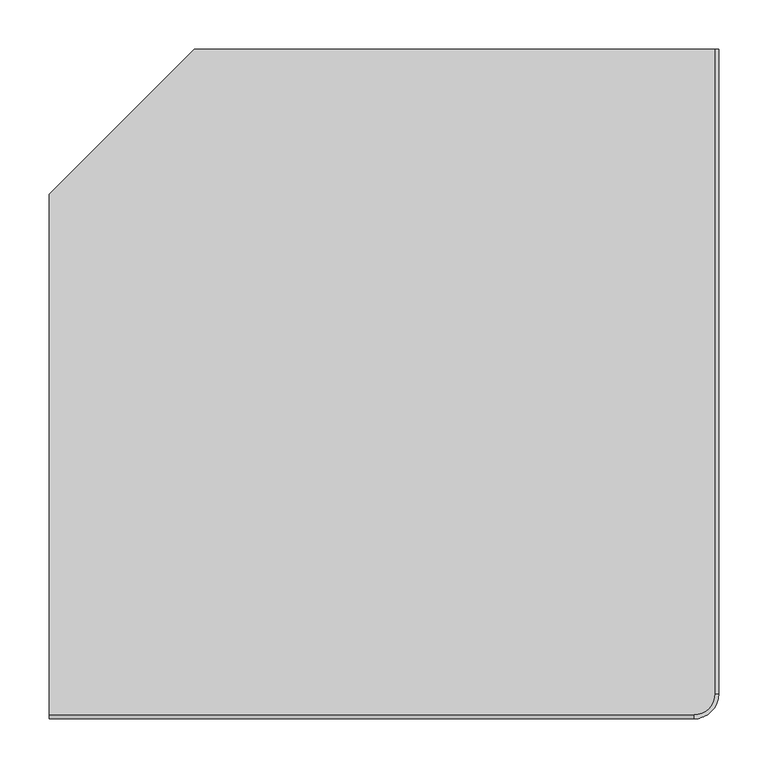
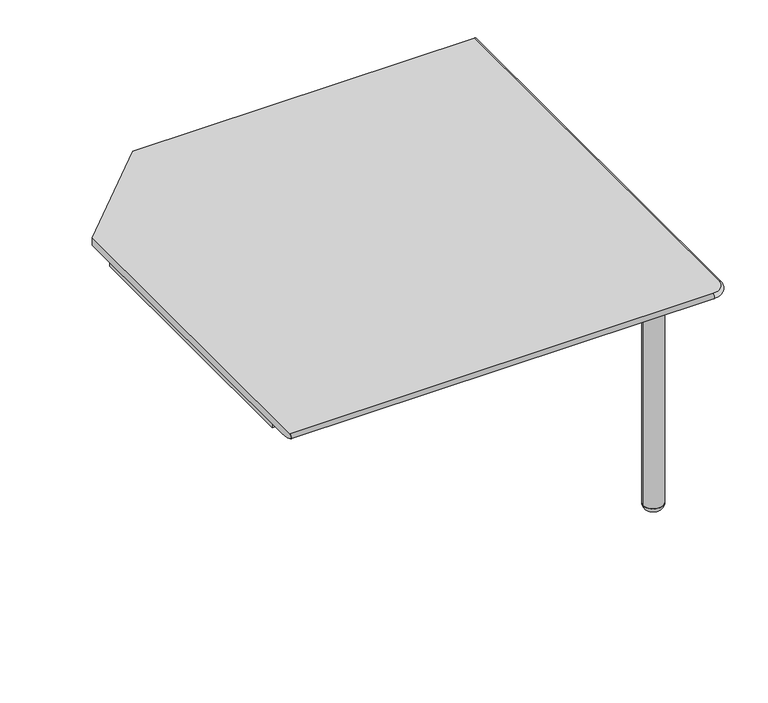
"""IFC4 building model written with IfcOpenShell, lengths in millimetres: furniture geometry, Integra - Coastal Collection - Tide Metal - System Table : Tide - 90° Two-Way Table."""

from ifc_helpers import new_model, si_unit, point, frame, frame_2d, origin, place, context, project, spatial, polyline, circle_curve, ellipse_curve, trimmed, segment, composite_curve, outline, extrude, source, transform, mapped, element, save
from ifc_brep_helpers import plane_surface, cylinder_surface, revolved_surface, advanced_brep


def furniture_3896681b(model_context):
    return source(origin(), model_context, "Body", "SolidModel", [
        advanced_brep(
        [(604.8363252, -190.5000363, 9.5239742), (589.1919312, -190.5000363, 9.5239742), (620.4807191, -190.5000363, 9.5239742), (598.7169312, -190.5000363, -0.0010258), (610.9557191, -190.5000363, -0.0010258), (604.8363252, -190.5000363, -0.0010258)],
        [
            (0, 1),
            (1, 2, circle_curve(frame((604.8363252, -190.5000363, 9.5239742), z_axis=(0.0, 0.0, 1.0), x_axis=(-1.0, 0.0, 0.0)), 15.6443939)),
            (2, 0),
            (2, 1, circle_curve(frame((604.8363252, -190.5000363, 9.5239742), z_axis=(0.0, 0.0, 1.0), x_axis=(-1.0, 0.0, 0.0)), 15.6443939)),
            (1, 3, circle_curve(frame((598.7169312, -190.5000363, 9.5239742), z_axis=(0.0, -1.0, 0.0), x_axis=(1.0, 0.0, 0.0)), 9.525)),
            (3, 4, circle_curve(frame((604.8363252, -190.5000363, -0.0010258), z_axis=(0.0, 0.0, 1.0), x_axis=(-1.0, 0.0, 0.0)), 6.1193939)),
            (4, 2, circle_curve(frame((610.9557191, -190.5000363, 9.5239742), z_axis=(0.0, -1.0, 0.0), x_axis=(-1.0, 0.0, 0.0)), 9.525)),
            (4, 3, circle_curve(frame((604.8363252, -190.5000363, -0.0010258), z_axis=(0.0, 0.0, 1.0), x_axis=(-1.0, 0.0, 0.0)), 6.1193939)),
            (3, 5),
            (5, 4),
        ],
        [
            plane_surface(frame((604.8363252, -190.5000363, 9.5239742), z_axis=(0.0, 0.0, 1.0), x_axis=(-1.0, 0.0, 0.0))),
            revolved_surface(trimmed(ellipse_curve(frame((598.7169312, -190.5000363, 9.5239742), z_axis=(0.0, 1.0, 0.0), x_axis=(1.0, 0.0, 0.0)), 9.525, 9.525), [point((598.7169312, -190.5000363, -0.0010258))], [point((589.1919312, -190.5000363, 9.5239742))], True, "CARTESIAN"), (604.8363252, -190.5000363, -0.0010258), (0.0, 0.0, 1.0)),
            plane_surface(frame((604.8363252, -190.5000363, -0.0010258), z_axis=(0.0, 0.0, -1.0), x_axis=(-1.0, 0.0, 0.0))),
        ],
        [
            (0, [[1, 2, 3]]),
            (0, [[-3, 4, -1]]),
            (1, [[-2, 5, 6, 7]]),
            (1, [[-4, -7, 8, -5]]),
            (2, [[-6, 9, 10]]),
            (2, [[-8, -10, -9]]),
        ],
    ),
        extrude(outline(composite_curve([segment(trimmed(circle_curve(frame_2d((604.8363252, -190.4999879)), 15.6443939), [point((589.1919312, -190.4999879))], [point((620.4807191, -190.4999879))], False, "CARTESIAN"), True, "CONTINUOUS"), segment(trimmed(circle_curve(frame_2d((604.8363252, -190.4999879)), 15.6443939), [point((620.4807191, -190.4999879))], [point((589.1919312, -190.4999879))], False, "CARTESIAN"), True, "CONTINUOUS")], self_intersect=False)), frame((0.0, 0.0, 9.5366915), z_axis=(0.0, 0.0, 1.0), x_axis=(1.0, 0.0, 0.0)), (0.0, 0.0, 1.0), 349.0026435),
        advanced_brep(
        [(147.6383842, 414.338372, 377.589341), (0.0, 266.6999879, 377.589341), (0.0, -262.7380071, 377.589341), (655.6336746, -262.7380071, 377.589341), (677.0876788, -241.2840029, 377.589341), (677.0876788, 414.338372, 377.589341), (0.0, -241.2840029, 364.8893349), (0.0, 266.6999879, 364.8893349), (147.6383842, 414.338372, 364.8893349), (655.6336746, 414.338372, 364.8893349), (655.6336746, -241.2840029, 364.8893349), (678.7683998, 414.338372, 370.0395379), (0.0, -264.4187281, 370.0395379), (678.7683998, -241.2840029, 370.0395379), (655.6336746, -264.4187281, 370.0395379)],
        [
            (0, 1),
            (1, 2),
            (2, 3),
            (3, 4, circle_curve(frame((655.6336746, -241.2840029, 377.589341), z_axis=(0.0, 0.0, 1.0), x_axis=(1.0, 0.0, 0.0)), 21.4540042)),
            (4, 5),
            (5, 0),
            (6, 7),
            (7, 8),
            (8, 9),
            (9, 10),
            (10, 6),
            (8, 0),
            (5, 11, circle_curve(frame((677.0876788, 414.338372, 373.6273602), z_axis=(0.0, 1.0, 0.0), x_axis=(1.0, 0.0, 0.0)), 3.9619808)),
            (11, 9, circle_curve(frame((655.6336746, 414.338372, 419.4250596), z_axis=(0.0, 1.0, 0.0), x_axis=(1.0, 0.0, 0.0)), 54.5357246)),
            (7, 1),
            (6, 12, circle_curve(frame((0.0, -241.2840029, 419.4250596), z_axis=(-1.0, 0.0, 0.0), x_axis=(0.0, -1.0, 0.0)), 54.5357246)),
            (12, 2, circle_curve(frame((0.0, -262.7380071, 373.6273602), z_axis=(-1.0, 0.0, 0.0), x_axis=(0.0, -1.0, 0.0)), 3.9619808)),
            (11, 13),
            (13, 10, circle_curve(frame((655.6336746, -241.2840029, 419.4250596), z_axis=(0.0, 1.0, 0.0), x_axis=(1.0, 0.0, 0.0)), 54.5357246)),
            (4, 13, circle_curve(frame((677.0876788, -241.2840029, 373.6273602), z_axis=(0.0, 1.0, 0.0), x_axis=(1.0, 0.0, 0.0)), 3.9619808)),
            (10, 14, circle_curve(frame((655.6336746, -241.2840029, 419.4250596), z_axis=(-1.0, 0.0, 0.0), x_axis=(0.0, -1.0, 0.0)), 54.5357246)),
            (14, 12),
            (14, 3, circle_curve(frame((655.6336746, -262.7380071, 373.6273602), z_axis=(-1.0, 0.0, 0.0), x_axis=(0.0, -1.0, 0.0)), 3.9619808)),
            (13, 14, circle_curve(frame((655.6336746, -241.2840029, 370.0395379), z_axis=(0.0, 0.0, -1.0), x_axis=(1.0, 0.0, 0.0)), 23.1347252)),
        ],
        [
            plane_surface(frame((655.6336746, -241.2840029, 377.589341), z_axis=(0.0, 0.0, 1.0), x_axis=(1.0, 0.0, 0.0))),
            plane_surface(frame((655.6336746, -241.2840029, 364.8893349), z_axis=(0.0, 0.0, -1.0), x_axis=(-1.0, 0.0, 0.0))),
            plane_surface(frame((655.6336746, 414.338372, 377.589341), z_axis=(0.0, 1.0, 0.0), x_axis=(0.0, 0.0, -1.0))),
            plane_surface(frame((147.6383842, 414.338372, 377.589341), z_axis=(-0.7071067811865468, 0.7071067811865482, 0.0), x_axis=(0.0, 0.0, -1.0))),
            plane_surface(frame((0.0, 266.6999879, 377.589341), z_axis=(-1.0, 0.0, 0.0), x_axis=(0.0, 0.0, -1.0))),
            cylinder_surface(frame((655.6336746, -241.2840029, 419.4250596), z_axis=(0.0, 1.0, 0.0), x_axis=(1.0, 0.0, 0.0)), 54.5357246),
            cylinder_surface(frame((677.0876788, -241.2840029, 373.6273602), z_axis=(0.0, 1.0, 0.0), x_axis=(1.0, 0.0, 0.0)), 3.9619808),
            cylinder_surface(frame((655.6336746, -241.2840029, 419.4250596), z_axis=(-1.0, 0.0, 0.0), x_axis=(0.0, -1.0, 0.0)), 54.5357246),
            cylinder_surface(frame((655.6336746, -262.7380071, 373.6273602), z_axis=(-1.0, 0.0, 0.0), x_axis=(0.0, -1.0, 0.0)), 3.9619808),
            revolved_surface(trimmed(ellipse_curve(frame((655.6336746, -241.2840029, 419.4250596), z_axis=(0.0, 1.0, 0.0), x_axis=(1.0, 0.0, 0.0)), 54.5357246, 54.5357246), [point((678.7683998, -241.2840029, 370.0395379))], [point((655.6336746, -241.2840029, 364.8893349))], True, "CARTESIAN"), (655.6336746, -241.2840029, 377.589341), (0.0, 0.0, -1.0)),
            revolved_surface(trimmed(ellipse_curve(frame((677.0876788, -241.2840029, 373.6273602), z_axis=(0.0, 1.0, 0.0), x_axis=(1.0, 0.0, 0.0)), 3.9619808, 3.9619808), [point((677.0876788, -241.2840029, 377.589341))], [point((678.7683998, -241.2840029, 370.0395379))], True, "CARTESIAN"), (655.6336746, -241.2840029, 377.589341), (0.0, 0.0, -1.0)),
        ],
        [
            (0, [[1, 2, 3, 4, 5, 6]]),
            (1, [[7, 8, 9, 10, 11]]),
            (2, [[-9, 12, -6, 13, 14]]),
            (3, [[-1, -12, -8, 15]]),
            (4, [[-7, 16, 17, -2, -15]]),
            (5, [[-14, 18, 19, -10]]),
            (6, [[-13, -5, 20, -18]]),
            (7, [[-16, -11, 21, 22]]),
            (8, [[-17, -22, 23, -3]]),
            (9, [[24, -21, -19]]),
            (10, [[-24, -20, -4, -23]]),
        ],
    ),
        extrude(outline(composite_curve([segment(polyline([(604.8363373, -215.9), (0.0, -215.9), (0.0, 220.5197052), (193.8186669, 414.338372), (630.2363373, 414.338372), (630.2363373, -190.5)]), True, "CONTINUOUS"), segment(trimmed(circle_curve(frame_2d((604.8363373, -190.5)), 25.4), [point((630.2363373, -190.5))], [point((604.8363373, -215.9))], False, "CARTESIAN"), True, "CONTINUOUS")], self_intersect=False)), frame((0.0, 0.0, 358.5393349), z_axis=(0.0, 0.0, 1.0), x_axis=(1.0, 0.0, 0.0)), (0.0, 0.0, 1.0), 6.35),
    ])


if __name__ == "__main__":
    model = new_model("IFC4")
    model_context = context("Model", 3, world=origin())
    ifc_project = project(units=[si_unit("LENGTHUNIT", "METRE", prefix="MILLI")], contexts=[model_context])
    site = spatial("IfcSite", under=ifc_project)
    building = spatial("IfcBuilding", under=site)
    placement = place(None, origin())
    furniture_shape = furniture_3896681b(model_context)
    element("IfcFurniture", 1, ObjectType="Integra - Coastal Collection - Tide Metal - System Table : Tide - 90° Two-Way Table", at=placement, inside=building, context=model_context, shape_type="MappedRepresentation", body=[
        mapped(furniture_shape, transform((0.0, 0.0, 0.0), x_axis=(1.0, 0.0, 0.0), y_axis=(0.0, 1.0, 0.0), z_axis=(0.0, 0.0, 1.0))),
    ])
    save(model, "model.ifc")
